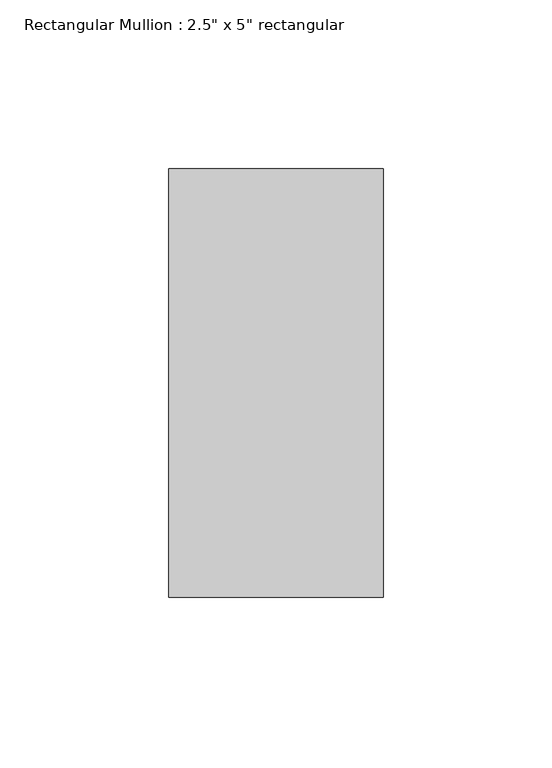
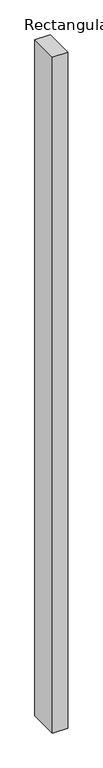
"""IFC4 building model written with IfcOpenShell, lengths in millimetres: member geometry."""

from ifc_helpers import new_model, si_unit, frame, origin, place, context, project, spatial, polyline, outline, extrude, source, transform, mapped, element, save


def member_b6e87a21(model_context):
    return source(origin(), model_context, "Body", "SweptSolid", [
        extrude(outline(polyline([(0.0, 63.5), (0.0, -63.5), (-63.5, -63.5), (-63.5, 63.5), (0.0, 63.5)])), frame((0.0, 0.0, -2984.4999999), z_axis=(0.0, 0.0, 1.0), x_axis=(1.0, 0.0, 0.0)), (0.0, 0.0, 1.0), 2984.4999999),
    ])


if __name__ == "__main__":
    model = new_model("IFC4")
    model_context = context("Model", 3, world=origin())
    ifc_project = project(units=[si_unit("LENGTHUNIT", "METRE", prefix="MILLI")], contexts=[model_context])
    site = spatial("IfcSite", under=ifc_project)
    building = spatial("IfcBuilding", under=site)
    placement = place(None, origin())
    member_shape = member_b6e87a21(model_context)
    element("IfcMember", 1, ObjectType="Rectangular Mullion : 2.5\" x 5\" rectangular", at=placement, inside=building, context=model_context, shape_type="MappedRepresentation", body=[
        mapped(member_shape, transform((0.0, 0.0, 0.0), x_axis=(1.0, 0.0, 0.0), y_axis=(0.0, 1.0, 0.0), z_axis=(0.0, 0.0, 1.0))),
    ])
    save(model, "model.ifc")
